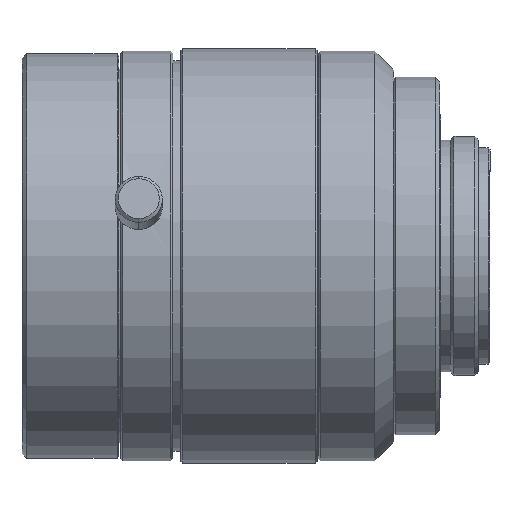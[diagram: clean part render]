
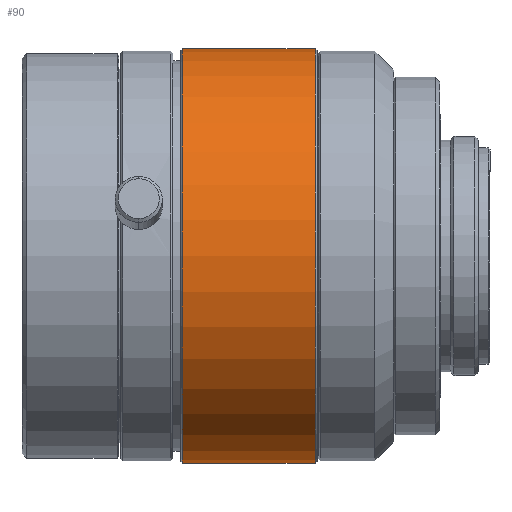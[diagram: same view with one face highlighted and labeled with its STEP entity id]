
A CAD part, top view. The second image highlights one B-rep face of the part: STEP entity #90.
In plain terms, the highlighted cylindrical face has radius 22 mm (diameter 44 mm), a partial arc.
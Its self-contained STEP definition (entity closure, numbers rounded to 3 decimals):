
#90 = ADVANCED_FACE ( 'NONE', ( #2610 ), #2617, .T. ) ;
#171 = ORIENTED_EDGE ( 'NONE', *, *, #3546, .T. ) ;
#172 = ORIENTED_EDGE ( 'NONE', *, *, #3552, .T. ) ;
#219 = ORIENTED_EDGE ( 'NONE', *, *, #3117, .F. ) ;
#310 = ORIENTED_EDGE ( 'NONE', *, *, #3547, .F. ) ;
#700 = VERTEX_POINT ( 'NONE', #1821 ) ;
#705 = VERTEX_POINT ( 'NONE', #1777 ) ;
#708 = VERTEX_POINT ( 'NONE', #1780 ) ;
#819 = VERTEX_POINT ( 'NONE', #1663 ) ;
#846 = EDGE_LOOP ( 'NONE', ( #171, #172, #219, #310 ) ) ;
#1063 = DIRECTION ( 'NONE',  ( 1., 0., 0. ) ) ;
#1067 = DIRECTION ( 'NONE',  ( 1., 0., 0. ) ) ;
#1184 = DIRECTION ( 'NONE',  ( 0., 1., 0. ) ) ;
#1211 = CARTESIAN_POINT ( 'NONE',  ( -44.969, 0., 0. ) ) ;
#1223 = DIRECTION ( 'NONE',  ( 1., 0., 0. ) ) ;
#1227 = CARTESIAN_POINT ( 'NONE',  ( 0., 22., 0. ) ) ;
#1239 = CARTESIAN_POINT ( 'NONE',  ( 0., -22., 0. ) ) ;
#1663 = CARTESIAN_POINT ( 'NONE',  ( -30.869, -22., 0. ) ) ;
#1777 = CARTESIAN_POINT ( 'NONE',  ( -44.969, -22., 0. ) ) ;
#1780 = CARTESIAN_POINT ( 'NONE',  ( -30.869, 22., 0. ) ) ;
#1816 = DIRECTION ( 'NONE',  ( 1., 0., 0. ) ) ;
#1821 = CARTESIAN_POINT ( 'NONE',  ( -44.969, 22., 0. ) ) ;
#1865 = DIRECTION ( 'NONE',  ( 0., 1., 0. ) ) ;
#1903 = CARTESIAN_POINT ( 'NONE',  ( 0., 0., 0. ) ) ;
#2066 = AXIS2_PLACEMENT_3D ( 'NONE', #2260, #2208, #2205 ) ;
#2205 = DIRECTION ( 'NONE',  ( 0., 1., 0. ) ) ;
#2208 = DIRECTION ( 'NONE',  ( 1., 0., 0. ) ) ;
#2260 = CARTESIAN_POINT ( 'NONE',  ( -30.869, 0., 0. ) ) ;
#2423 = AXIS2_PLACEMENT_3D ( 'NONE', #1903, #1816, #1865 ) ;
#2486 = AXIS2_PLACEMENT_3D ( 'NONE', #1211, #1223, #1184 ) ;
#2610 = FACE_OUTER_BOUND ( 'NONE', #846, .T. ) ;
#2617 = CYLINDRICAL_SURFACE ( 'NONE', #2423, 22. ) ;
#2754 = LINE ( 'NONE', #1227, #2765 ) ;
#2762 = LINE ( 'NONE', #1239, #2855 ) ;
#2765 = VECTOR ( 'NONE', #1067, 1000. ) ;
#2770 = CIRCLE ( 'NONE', #2486, 22. ) ;
#2855 = VECTOR ( 'NONE', #1063, 1000. ) ;
#2906 = CIRCLE ( 'NONE', #2066, 22. ) ;
#3117 = EDGE_CURVE ( 'NONE', #708, #819, #2906, .T. ) ;
#3546 = EDGE_CURVE ( 'NONE', #700, #705, #2770, .T. ) ;
#3547 = EDGE_CURVE ( 'NONE', #700, #708, #2754, .T. ) ;
#3552 = EDGE_CURVE ( 'NONE', #705, #819, #2762, .T. ) ;
